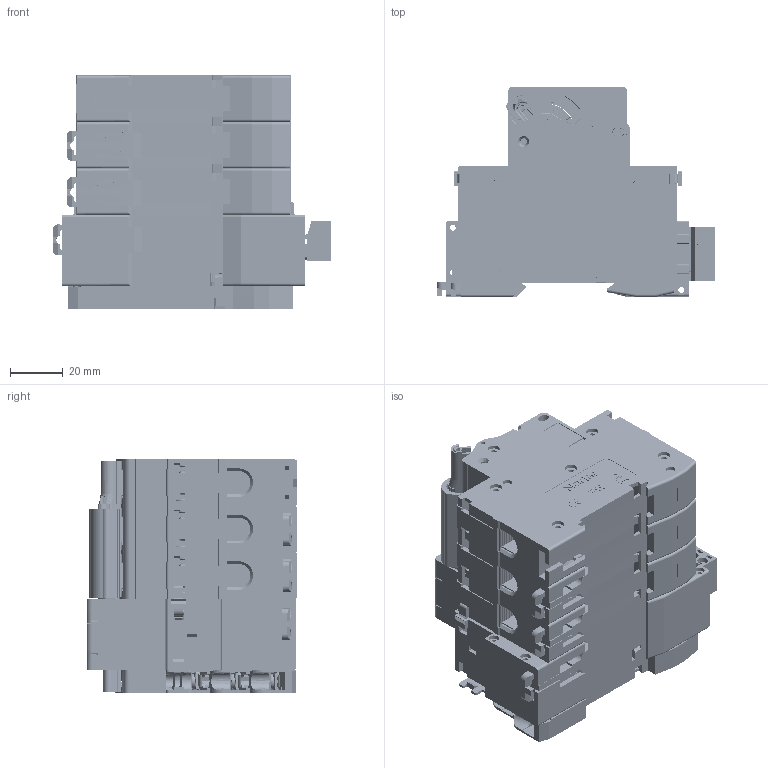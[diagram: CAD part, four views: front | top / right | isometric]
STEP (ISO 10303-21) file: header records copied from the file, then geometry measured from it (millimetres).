
FILE_DESCRIPTION (( 'STEP AP214' ), '1' );
FILE_NAME ('NDB2-63 3P TM2 OF2.STEP', '2023-06-05T03:54:19', ( '' ), ( '' ), 'SwSTEP 2.0', 'SolidWorks 2018', '' );
FILE_SCHEMA (( 'AUTOMOTIVE_DESIGN' ));
Length unit declared in the file: millimetre
Products named in the file (30): 8LD.315.140.STEP; 8LD.024.137.STEP; 8LD.024.1356.IGS; 8LD.516.135.STEP; 8LD.907.115.STEP; 8LD.253.129.STEP; 8LD.557.191.IGS; 8LD.570.122.IGS; 5LD.574.103.STEP; 8LD.371.103.IGS; 8LD.039.1008.IGS; OF2 耀倰芞 ; 8LD.315.141.STEP; 8LD.315.1363.IGS; 8LD.043.149.IGS; 1p.STEP; 8LD.516.163.STEP; NDB2-63 3P TM2  OF2; 8LD.253.1258.IGS; 8LD.557.190.IGS; OF2 耀倰芞 .IGS; Tm2  3P  3D耀倰芞; 8LD.143.115.STEP; 8LD.039.100.STEP; 1p-1.STEP; 8LD.885.111.IGS; 8LD.253.172.STEP; 8LD.907.104.IGS; 8LD.516.164.STEP; NDB2(T)-63 3p.STEP
Assembly tree (46 placements, depth 5):
  NDB2-63 3P TM2  OF2
    NDB2(T)-63 3p.STEP
      1p.STEP
        5LD.574.103.STEP  x2
          8LD.516.135.STEP
          8LD.907.115.STEP
        8LD.024.137.STEP
        8LD.253.129.STEP
        8LD.315.140.STEP
        8LD.315.141.STEP  x2
        8LD.516.163.STEP
        8LD.516.164.STEP
        8LD.039.100.STEP
      1p-1.STEP  x2
        5LD.574.103.STEP
          8LD.516.135.STEP
          8LD.907.115.STEP
        8LD.024.137.STEP
        8LD.253.129.STEP
        8LD.143.115.STEP
        8LD.315.140.STEP
        8LD.315.141.STEP
        8LD.516.163.STEP
        8LD.516.164.STEP
        8LD.039.100.STEP
      8LD.253.172.STEP
    Tm2  3P  3D耀倰芞
    OF2 耀倰芞 
      OF2 耀倰芞 .IGS
        8LD.024.1356.IGS
        8LD.253.1258.IGS
        8LD.315.1363.IGS
        8LD.043.149.IGS
        8LD.885.111.IGS
        8LD.039.1008.IGS
        8LD.570.122.IGS
        8LD.557.190.IGS
        8LD.557.191.IGS
        8LD.907.104.IGS  x3
        8LD.371.103.IGS  x3
Bounding box: 105.49 x 79.86 x 88.3 mm (x, y, z)
Volume: 287524.4 mm3; surface area: 248328.5 mm2
Topology: 73 solids, 138 shells, 15009 faces, 41991 edges, 27503 vertices
Faces by surface type: plane 7539, cylinder 3694, bspline 2851, cone 838, torus 63, sphere 24
Entity records: 281671 total; most frequent: CARTESIAN_POINT 101839, ORIENTED_EDGE 42632, DIRECTION 28735, EDGE_CURVE 21393, VERTEX_POINT 14029, LINE 10913, VECTOR 10913, AXIS2_PLACEMENT_3D 8911
